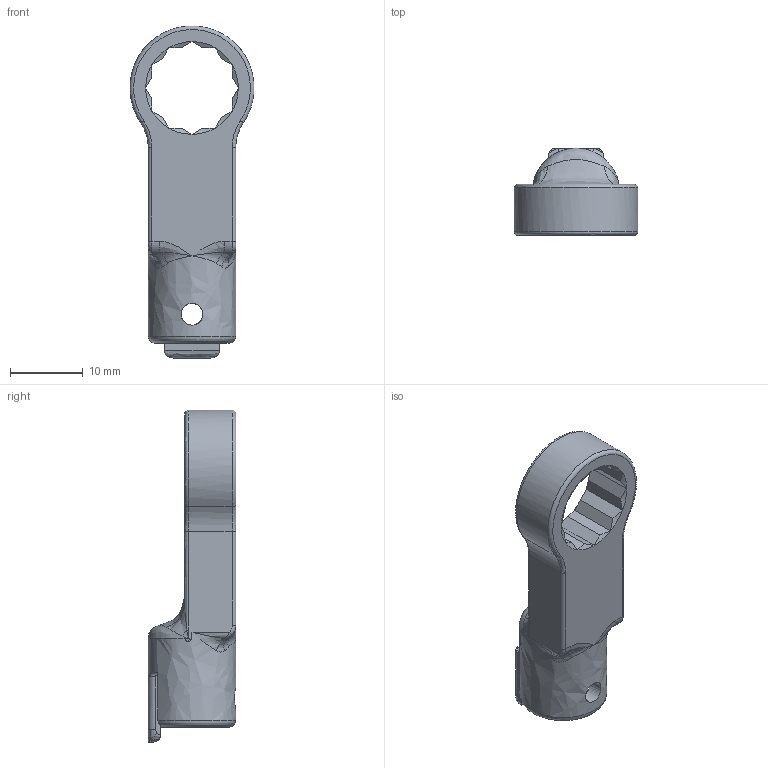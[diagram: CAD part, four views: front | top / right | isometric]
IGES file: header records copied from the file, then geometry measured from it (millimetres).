
Global section: file name: RH8DX11; native system: Autodesk Inventor 2016; preprocessor: unknown; author: Q600; date: 20151110.153753; units: millimetre
Bounding box: 16.99 x 12 x 45.49 mm (x, y, z)
Volume: 3002.1 mm3; surface area: 2246.4 mm2
Topology: 1 solids, 1 shells, 136 faces, 324 edges, 177 vertices
Faces by surface type: bspline 136
